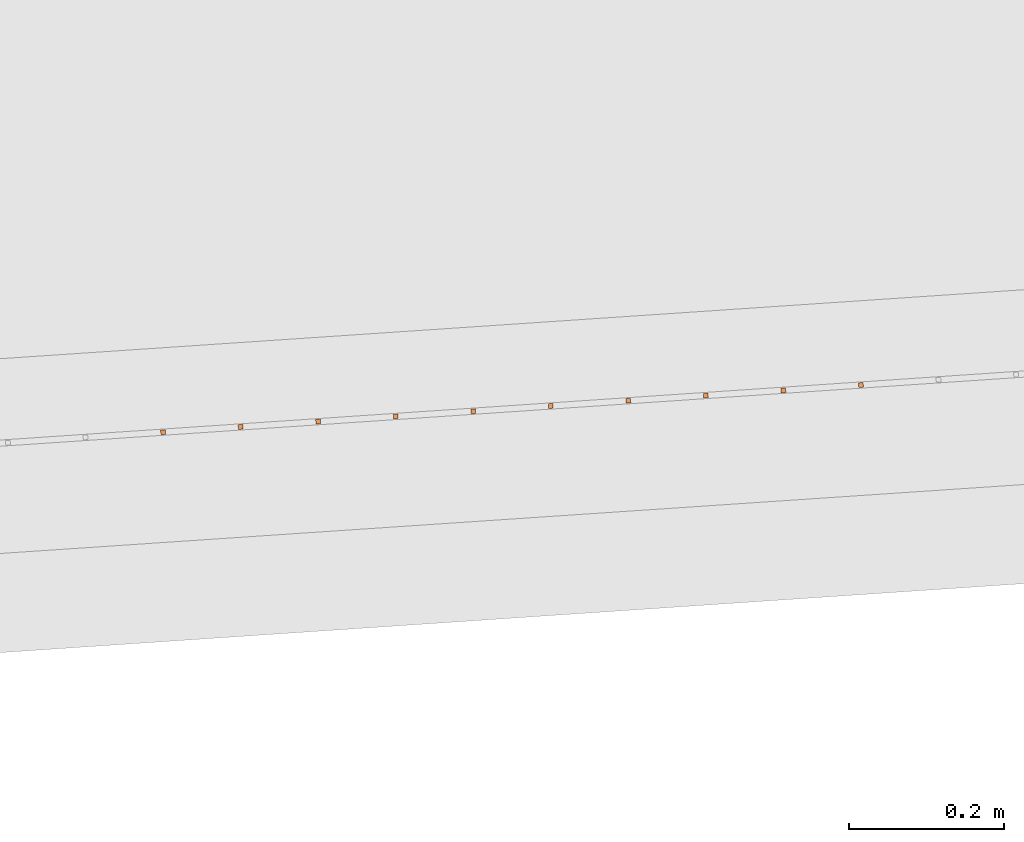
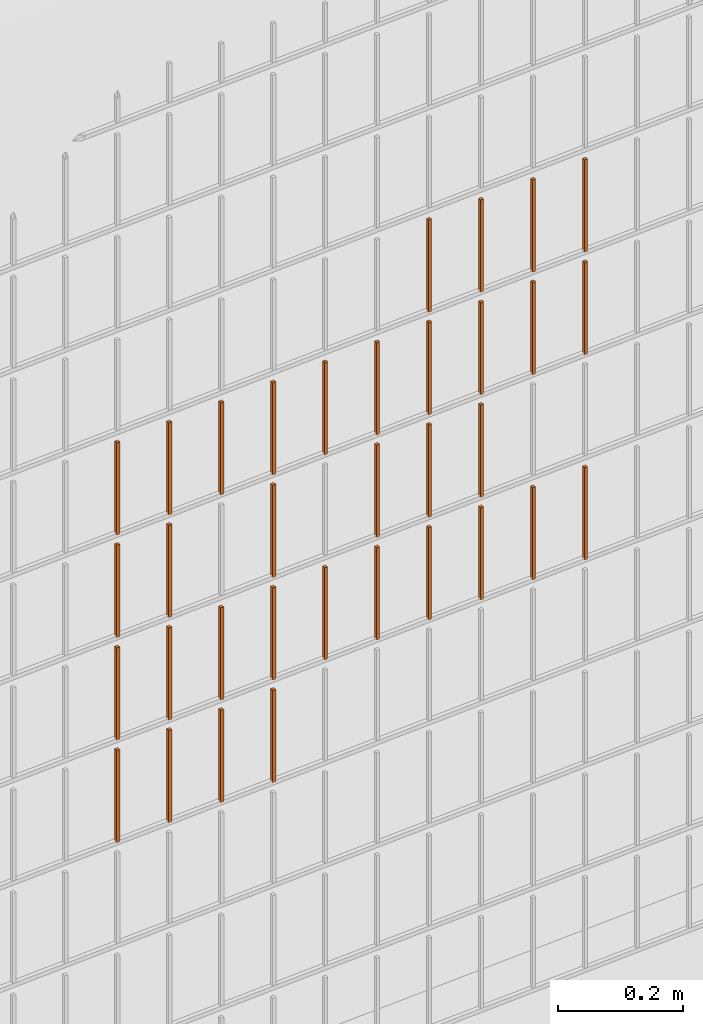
# One storey, part 281 of 1809: 34 proxies, 1 element without a shape of its own.
"""IFC2X3 building model written with IfcOpenShell, lengths in millimetres."""

from ifc_helpers import new_model, entity, si_unit, converted_unit, derived_unit, money_unit, direction, frame, origin_with_axes, place, context, subcontext, project, spatial, faceted_brep, source, transform, mapped, material, type_object, element, aggregate, save


model = new_model("IFC2X3")

# Units and contexts
model_context = context("Model", 3, precision=0.01, world=origin_with_axes(), true_north=direction((0.0, 1.0)))
body_context = subcontext(model_context, "Body", "Model", "MODEL_VIEW")
ifc_project = project(units=[si_unit("LENGTHUNIT", "METRE", prefix="MILLI"), si_unit("AREAUNIT", "SQUARE_METRE"), si_unit("VOLUMEUNIT", "CUBIC_METRE"), converted_unit("PLANEANGLEUNIT", "DEGREE", entity("IfcPlaneAngleMeasure", 0.0174532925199), si_unit("PLANEANGLEUNIT", "RADIAN"), dimensions=[0, 0, 0, 0, 0, 0, 0]), si_unit("SOLIDANGLEUNIT", "STERADIAN"), money_unit("EUR"), converted_unit("TIMEUNIT", "Year", entity("IfcTimeMeasure", 31556926.0), si_unit("TIMEUNIT", "SECOND"), dimensions=[0, 0, 1, 0, 0, 0, 0]), si_unit("MASSUNIT", "GRAM", prefix="KILO"), si_unit("THERMODYNAMICTEMPERATUREUNIT", "DEGREE_CELSIUS"), si_unit("LUMINOUSINTENSITYUNIT", "LUMEN"), si_unit("ENERGYUNIT", "JOULE", prefix="MEGA"), derived_unit("THERMALCONDUCTANCEUNIT", [(si_unit("POWERUNIT", "WATT"), 1), (si_unit("LENGTHUNIT", "METRE"), -1), (si_unit("THERMODYNAMICTEMPERATUREUNIT", "KELVIN"), -1)]), derived_unit("SPECIFICHEATCAPACITYUNIT", [(si_unit("ENERGYUNIT", "JOULE"), 1), (si_unit("MASSUNIT", "GRAM", prefix="KILO"), -1), (si_unit("THERMODYNAMICTEMPERATUREUNIT", "KELVIN"), -1)]), derived_unit("MASSDENSITYUNIT", [(si_unit("MASSUNIT", "GRAM", prefix="KILO"), 1), (si_unit("VOLUMEUNIT", "CUBIC_METRE"), -1)])], contexts=[model_context])

# Site, building, storey
site_placement = place(None, origin_with_axes())
site = spatial("IfcSite", under=ifc_project, at=site_placement, Name="Politse- ja Piirivalveameti ning Päästeameti ühishoone", CompositionType="ELEMENT")
building_placement = place(site_placement, origin_with_axes())
building = spatial("IfcBuilding", under=site, at=building_placement, Name="Politse- ja Piirivalveameti ning Päästeameti ühishoone", CompositionType="ELEMENT")
storey_placement = place(building_placement, origin_with_axes())
storey = spatial("IfcBuildingStorey", under=building, at=storey_placement, Name="Esimene korrus", CompositionType="ELEMENT", Elevation=0.0)

# Proxies
building_element_proxy_type_1 = type_object("IfcBuildingElementProxyType", Name="Railing Type", PredefinedType="NOTDEFINED")
proxy_1_placement = place(storey_placement, frame((89252.001212, -29183.4766571, 203.661247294), z_axis=(0.0, 0.0, 1.0), x_axis=(1.0, 0.0, 0.0)))
proxy_1 = element("IfcBuildingElementProxy", 1, at=proxy_1_placement, inside=storey, type_object=building_element_proxy_type_1, Name="PIIRDEAED")
ifc_material = material(Name="ET-03_Raud")
building_element_proxy_type_2 = type_object("IfcBuildingElementProxyType", Name="IfcBuildingElementProxy", PredefinedType="NOTDEFINED")
shared_shape_1 = source(origin_with_axes(), body_context, "Body", "Brep", [
    faceted_brep([(3.0, 3.0, -0.000752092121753), (-3.0, 3.0, -0.000752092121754), (-3.0, 3.0, 179.99926046), (3.0, 3.0, 179.99926046), (3.0, -3.0, 0.000752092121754), (-3.0, -3.0, 0.000752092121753), (-3.0, -3.0, 180.000764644), (3.0, -3.0, 180.000764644)], [[[0, 1, 2, 3]], [[0, 4, 5, 1]], [[1, 5, 6, 2]], [[3, 2, 6, 7]], [[4, 0, 3, 7]], [[5, 4, 7, 6]]]),
])
proxy_2_placement = place(proxy_1_placement, frame((-50212.2717659, -20689.4242251, 1414.617617), z_axis=(0.0, 0.0, 1.0), x_axis=(1.0, 0.0, 0.0)))
proxy_2 = element("IfcBuildingElementProxy", 2, at=proxy_2_placement, type_object=building_element_proxy_type_2, material=ifc_material, Name="BALUSTER - 001", context=body_context, shape_type="MappedRepresentation", body=[
    mapped(shared_shape_1, transform((0.0, 0.0, 0.0), x_axis=(-0.0673926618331, 0.997726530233, 0.0), y_axis=(-0.997726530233, -0.0673926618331, 0.0), z_axis=(0.0, 0.0, 1.0))),
])
shared_shape_2 = source(origin_with_axes(), body_context, "Body", "Brep", [
    faceted_brep([(3.0, 3.0, -0.000752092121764), (-3.0, 3.0, -0.000752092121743), (-3.0, 3.0, 179.99926046), (3.0, 3.0, 179.99926046), (3.0, -3.0, 0.000752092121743), (-3.0, -3.0, 0.000752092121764), (-3.0, -3.0, 180.000764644), (3.0, -3.0, 180.000764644)], [[[0, 1, 2, 3]], [[0, 4, 5, 1]], [[1, 5, 6, 2]], [[3, 2, 6, 7]], [[4, 0, 3, 7]], [[5, 4, 7, 6]]]),
])
proxy_3_placement = place(proxy_1_placement, frame((-51110.2256431, -20750.0776208, 614.391989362), z_axis=(0.0, 0.0, 1.0), x_axis=(1.0, 0.0, 0.0)))
proxy_3 = element("IfcBuildingElementProxy", 3, at=proxy_3_placement, type_object=building_element_proxy_type_2, material=ifc_material, Name="BALUSTER - 001", context=body_context, shape_type="MappedRepresentation", body=[
    mapped(shared_shape_2, transform((0.0, 0.0, 0.0), x_axis=(-0.0673926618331, 0.997726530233, 0.0), y_axis=(-0.997726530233, -0.0673926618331, 0.0), z_axis=(0.0, 0.0, 1.0))),
])
shared_shape_3 = source(origin_with_axes(), body_context, "Body", "Brep", [
    faceted_brep([(3.0, 3.0, -0.000752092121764), (-3.0, 3.0, -0.000752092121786), (-3.0, 3.0, 179.99926046), (3.0, 3.0, 179.99926046), (3.0, -3.0, 0.000752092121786), (-3.0, -3.0, 0.000752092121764), (-3.0, -3.0, 180.000764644), (3.0, -3.0, 180.000764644)], [[[0, 1, 2, 3]], [[0, 4, 5, 1]], [[1, 5, 6, 2]], [[3, 2, 6, 7]], [[4, 0, 3, 7]], [[5, 4, 7, 6]]]),
])
proxy_4_placement = place(proxy_1_placement, frame((-50810.907684, -20729.8598222, 814.467198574), z_axis=(0.0, 0.0, 1.0), x_axis=(1.0, 0.0, 0.0)))
proxy_4 = element("IfcBuildingElementProxy", 4, at=proxy_4_placement, type_object=building_element_proxy_type_2, material=ifc_material, Name="BALUSTER - 001", context=body_context, shape_type="MappedRepresentation", body=[
    mapped(shared_shape_3, transform((0.0, 0.0, 0.0), x_axis=(-0.0673926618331, 0.997726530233, 0.0), y_axis=(-0.997726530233, -0.0673926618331, 0.0), z_axis=(0.0, 0.0, 1.0))),
])
shared_shape_4 = source(origin_with_axes(), body_context, "Body", "Brep", [
    faceted_brep([(3.0, 3.0, -0.000752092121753), (-3.0, 3.0, -0.000752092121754), (-3.0, 3.0, 179.99926046), (3.0, 3.0, 179.99926046), (3.0, -3.0, 0.000752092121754), (-3.0, -3.0, 0.000752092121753), (-3.0, -3.0, 180.000764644), (3.0, -3.0, 180.000764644)], [[[0, 1, 2, 3]], [[0, 4, 5, 1]], [[1, 5, 6, 2]], [[3, 2, 6, 7]], [[4, 0, 3, 7]], [[5, 4, 7, 6]]]),
])
proxy_5_placement = place(proxy_1_placement, frame((-50212.2717659, -20689.4242251, 1214.617617), z_axis=(0.0, 0.0, 1.0), x_axis=(1.0, 0.0, 0.0)))
proxy_5 = element("IfcBuildingElementProxy", 5, at=proxy_5_placement, type_object=building_element_proxy_type_2, material=ifc_material, Name="BALUSTER - 001", context=body_context, shape_type="MappedRepresentation", body=[
    mapped(shared_shape_4, transform((0.0, 0.0, 0.0), x_axis=(-0.0673926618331, 0.997726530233, 0.0), y_axis=(-0.997726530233, -0.0673926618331, 0.0), z_axis=(0.0, 0.0, 1.0))),
])
shared_shape_5 = source(origin_with_axes(), body_context, "Body", "Brep", [
    faceted_brep([(3.0, 3.0, -0.000752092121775), (-3.0, 3.0, -0.000752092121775), (-3.0, 3.0, 179.99926046), (3.0, 3.0, 179.99926046), (3.0, -3.0, 0.000752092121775), (-3.0, -3.0, 0.000752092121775), (-3.0, -3.0, 180.000764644), (3.0, -3.0, 180.000764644)], [[[0, 1, 2, 3]], [[0, 4, 5, 1]], [[1, 5, 6, 2]], [[3, 2, 6, 7]], [[4, 0, 3, 7]], [[5, 4, 7, 6]]]),
])
proxy_6_placement = place(proxy_1_placement, frame((-50711.135031, -20723.120556, 814.492268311), z_axis=(0.0, 0.0, 1.0), x_axis=(1.0, 0.0, 0.0)))
proxy_6 = element("IfcBuildingElementProxy", 6, at=proxy_6_placement, type_object=building_element_proxy_type_2, material=ifc_material, Name="BALUSTER - 001", context=body_context, shape_type="MappedRepresentation", body=[
    mapped(shared_shape_5, transform((0.0, 0.0, 0.0), x_axis=(-0.0673926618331, 0.997726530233, 0.0), y_axis=(-0.997726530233, -0.0673926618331, 0.0), z_axis=(0.0, 0.0, 1.0))),
])
shared_shape_6 = source(origin_with_axes(), body_context, "Body", "Brep", [
    faceted_brep([(3.0, 3.0, -0.000752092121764), (-3.0, 3.0, -0.000752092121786), (-3.0, 3.0, 179.99926046), (3.0, 3.0, 179.99926046), (3.0, -3.0, 0.000752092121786), (-3.0, -3.0, 0.000752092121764), (-3.0, -3.0, 180.000764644), (3.0, -3.0, 180.000764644)], [[[0, 1, 2, 3]], [[0, 4, 5, 1]], [[1, 5, 6, 2]], [[3, 2, 6, 7]], [[4, 0, 3, 7]], [[5, 4, 7, 6]]]),
])
proxy_7_placement = place(proxy_1_placement, frame((-50810.907684, -20729.8598222, 614.467198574), z_axis=(0.0, 0.0, 1.0), x_axis=(1.0, 0.0, 0.0)))
proxy_7 = element("IfcBuildingElementProxy", 7, at=proxy_7_placement, type_object=building_element_proxy_type_2, material=ifc_material, Name="BALUSTER - 001", context=body_context, shape_type="MappedRepresentation", body=[
    mapped(shared_shape_6, transform((0.0, 0.0, 0.0), x_axis=(-0.0673926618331, 0.997726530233, 0.0), y_axis=(-0.997726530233, -0.0673926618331, 0.0), z_axis=(0.0, 0.0, 1.0))),
])
shared_shape_7 = source(origin_with_axes(), body_context, "Body", "Brep", [
    faceted_brep([(3.0, 3.0, -0.000752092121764), (-3.0, 3.0, -0.000752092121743), (-3.0, 3.0, 179.99926046), (3.0, 3.0, 179.99926046), (3.0, -3.0, 0.000752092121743), (-3.0, -3.0, 0.000752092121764), (-3.0, -3.0, 180.000764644), (3.0, -3.0, 180.000764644)], [[[0, 1, 2, 3]], [[0, 4, 5, 1]], [[1, 5, 6, 2]], [[3, 2, 6, 7]], [[4, 0, 3, 7]], [[5, 4, 7, 6]]]),
])
proxy_8_placement = place(proxy_1_placement, frame((-51110.2256431, -20750.0776208, 1214.39198936), z_axis=(0.0, 0.0, 1.0), x_axis=(1.0, 0.0, 0.0)))
proxy_8 = element("IfcBuildingElementProxy", 8, at=proxy_8_placement, type_object=building_element_proxy_type_2, material=ifc_material, Name="BALUSTER - 001", context=body_context, shape_type="MappedRepresentation", body=[
    mapped(shared_shape_7, transform((0.0, 0.0, 0.0), x_axis=(-0.0673926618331, 0.997726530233, 0.0), y_axis=(-0.997726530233, -0.0673926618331, 0.0), z_axis=(0.0, 0.0, 1.0))),
])
shared_shape_8 = source(origin_with_axes(), body_context, "Body", "Brep", [
    faceted_brep([(3.0, 3.0, -0.000752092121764), (-3.0, 3.0, -0.000752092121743), (-3.0, 3.0, 179.99926046), (3.0, 3.0, 179.99926046), (3.0, -3.0, 0.000752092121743), (-3.0, -3.0, 0.000752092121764), (-3.0, -3.0, 180.000764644), (3.0, -3.0, 180.000764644)], [[[0, 1, 2, 3]], [[0, 4, 5, 1]], [[1, 5, 6, 2]], [[3, 2, 6, 7]], [[4, 0, 3, 7]], [[5, 4, 7, 6]]]),
])
proxy_9_placement = place(proxy_1_placement, frame((-50312.0444189, -20696.1634913, 814.592547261), z_axis=(0.0, 0.0, 1.0), x_axis=(1.0, 0.0, 0.0)))
proxy_9 = element("IfcBuildingElementProxy", 9, at=proxy_9_placement, type_object=building_element_proxy_type_2, material=ifc_material, Name="BALUSTER - 001", context=body_context, shape_type="MappedRepresentation", body=[
    mapped(shared_shape_8, transform((0.0, 0.0, 0.0), x_axis=(-0.0673926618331, 0.997726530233, 0.0), y_axis=(-0.997726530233, -0.0673926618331, 0.0), z_axis=(0.0, 0.0, 1.0))),
])
proxy_10_placement = place(proxy_1_placement, frame((-51110.2256431, -20750.0776208, 814.391989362), z_axis=(0.0, 0.0, 1.0), x_axis=(1.0, 0.0, 0.0)))
proxy_10 = element("IfcBuildingElementProxy", 10, at=proxy_10_placement, type_object=building_element_proxy_type_2, material=ifc_material, Name="BALUSTER - 001", context=body_context, shape_type="MappedRepresentation", body=[
    mapped(shared_shape_8, transform((0.0, 0.0, 0.0), x_axis=(-0.0673926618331, 0.997726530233, 0.0), y_axis=(-0.997726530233, -0.0673926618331, 0.0), z_axis=(0.0, 0.0, 1.0))),
])
shared_shape_9 = source(origin_with_axes(), body_context, "Body", "Brep", [
    faceted_brep([(3.0, 3.0, -0.000752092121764), (-3.0, 3.0, -0.000752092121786), (-3.0, 3.0, 179.99926046), (3.0, 3.0, 179.99926046), (3.0, -3.0, 0.000752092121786), (-3.0, -3.0, 0.000752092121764), (-3.0, -3.0, 180.000764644), (3.0, -3.0, 180.000764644)], [[[0, 1, 2, 3]], [[0, 4, 5, 1]], [[1, 5, 6, 2]], [[3, 2, 6, 7]], [[4, 0, 3, 7]], [[5, 4, 7, 6]]]),
])
proxy_11_placement = place(proxy_1_placement, frame((-50711.135031, -20723.120556, 1214.49226831), z_axis=(0.0, 0.0, 1.0), x_axis=(1.0, 0.0, 0.0)))
proxy_11 = element("IfcBuildingElementProxy", 11, at=proxy_11_placement, type_object=building_element_proxy_type_2, material=ifc_material, Name="BALUSTER - 001", context=body_context, shape_type="MappedRepresentation", body=[
    mapped(shared_shape_9, transform((0.0, 0.0, 0.0), x_axis=(-0.0673926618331, 0.997726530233, 0.0), y_axis=(-0.997726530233, -0.0673926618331, 0.0), z_axis=(0.0, 0.0, 1.0))),
])
shared_shape_10 = source(origin_with_axes(), body_context, "Body", "Brep", [
    faceted_brep([(3.0, 3.0, -0.000752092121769), (-3.0, 3.0, -0.00075209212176), (-3.00000000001, 3.0, 179.99926046), (2.99999999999, 3.0, 179.99926046), (3.0, -3.0, 0.00075209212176), (-3.0, -3.0, 0.000752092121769), (-3.00000000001, -3.0, 180.000764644), (2.99999999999, -3.0, 180.000764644)], [[[0, 1, 2, 3]], [[0, 4, 5, 1]], [[1, 5, 6, 2]], [[3, 2, 6, 7]], [[4, 0, 3, 7]], [[5, 4, 7, 6]]]),
])
proxy_12_placement = place(proxy_1_placement, frame((-50411.817072, -20702.9027575, 1014.56747752), z_axis=(0.0, 0.0, 1.0), x_axis=(1.0, 0.0, 0.0)))
proxy_12 = element("IfcBuildingElementProxy", 12, at=proxy_12_placement, type_object=building_element_proxy_type_2, material=ifc_material, Name="BALUSTER - 001", context=body_context, shape_type="MappedRepresentation", body=[
    mapped(shared_shape_10, transform((0.0, 0.0, 0.0), x_axis=(-0.0673926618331, 0.997726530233, 0.0), y_axis=(-0.997726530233, -0.0673926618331, 0.0), z_axis=(0.0, 0.0, 1.0))),
])
shared_shape_11 = source(origin_with_axes(), body_context, "Body", "Brep", [
    faceted_brep([(3.0, 3.0, -0.000752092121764), (-3.0, 3.0, -0.000752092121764), (-3.0, 3.0, 179.99926046), (3.0, 3.0, 179.99926046), (3.0, -3.0, 0.000752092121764), (-3.0, -3.0, 0.000752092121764), (-3.0, -3.0, 180.000764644), (3.0, -3.0, 180.000764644)], [[[0, 1, 2, 3]], [[0, 4, 5, 1]], [[1, 5, 6, 2]], [[3, 2, 6, 7]], [[4, 0, 3, 7]], [[5, 4, 7, 6]]]),
])
proxy_13_placement = place(proxy_1_placement, frame((-50411.817072, -20702.9027575, 814.567477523), z_axis=(0.0, 0.0, 1.0), x_axis=(1.0, 0.0, 0.0)))
proxy_13 = element("IfcBuildingElementProxy", 13, at=proxy_13_placement, type_object=building_element_proxy_type_2, material=ifc_material, Name="BALUSTER - 001", context=body_context, shape_type="MappedRepresentation", body=[
    mapped(shared_shape_11, transform((0.0, 0.0, 0.0), x_axis=(-0.0673926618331, 0.997726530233, 0.0), y_axis=(-0.997726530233, -0.0673926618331, 0.0), z_axis=(0.0, 0.0, 1.0))),
])
shared_shape_12 = source(origin_with_axes(), body_context, "Body", "Brep", [
    faceted_brep([(3.0, 3.0, -0.000752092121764), (-3.0, 3.0, -0.000752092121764), (-3.0, 3.0, 179.99926046), (3.0, 3.0, 179.99926046), (3.0, -3.0, 0.000752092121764), (-3.0, -3.0, 0.000752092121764), (-3.0, -3.0, 180.000764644), (3.0, -3.0, 180.000764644)], [[[0, 1, 2, 3]], [[0, 4, 5, 1]], [[1, 5, 6, 2]], [[3, 2, 6, 7]], [[4, 0, 3, 7]], [[5, 4, 7, 6]]]),
])
proxy_14_placement = place(proxy_1_placement, frame((-50810.907684, -20729.8598222, 1214.46719857), z_axis=(0.0, 0.0, 1.0), x_axis=(1.0, 0.0, 0.0)))
proxy_14 = element("IfcBuildingElementProxy", 14, at=proxy_14_placement, type_object=building_element_proxy_type_2, material=ifc_material, Name="BALUSTER - 001", context=body_context, shape_type="MappedRepresentation", body=[
    mapped(shared_shape_12, transform((0.0, 0.0, 0.0), x_axis=(-0.0673926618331, 0.997726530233, 0.0), y_axis=(-0.997726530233, -0.0673926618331, 0.0), z_axis=(0.0, 0.0, 1.0))),
])
shared_shape_13 = source(origin_with_axes(), body_context, "Body", "Brep", [
    faceted_brep([(3.0, 3.0, -0.000752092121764), (-3.0, 3.0, -0.000752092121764), (-3.0, 3.0, 179.99926046), (3.0, 3.0, 179.99926046), (3.0, -3.0, 0.000752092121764), (-3.0, -3.0, 0.000752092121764), (-3.0, -3.0, 180.000764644), (3.0, -3.0, 180.000764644)], [[[0, 1, 2, 3]], [[0, 4, 5, 1]], [[1, 5, 6, 2]], [[3, 2, 6, 7]], [[4, 0, 3, 7]], [[5, 4, 7, 6]]]),
])
proxy_15_placement = place(proxy_1_placement, frame((-50411.817072, -20702.9027575, 1214.56747752), z_axis=(0.0, 0.0, 1.0), x_axis=(1.0, 0.0, 0.0)))
proxy_15 = element("IfcBuildingElementProxy", 15, at=proxy_15_placement, type_object=building_element_proxy_type_2, material=ifc_material, Name="BALUSTER - 001", context=body_context, shape_type="MappedRepresentation", body=[
    mapped(shared_shape_13, transform((0.0, 0.0, 0.0), x_axis=(-0.0673926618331, 0.997726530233, 0.0), y_axis=(-0.997726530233, -0.0673926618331, 0.0), z_axis=(0.0, 0.0, 1.0))),
])
shared_shape_14 = source(origin_with_axes(), body_context, "Body", "Brep", [
    faceted_brep([(3.0, 3.0, -0.000752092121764), (-3.0, 3.0, -0.000752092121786), (-3.0, 3.0, 179.99926046), (3.0, 3.0, 179.99926046), (3.0, -3.0, 0.000752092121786), (-3.0, -3.0, 0.000752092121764), (-3.0, -3.0, 180.000764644), (3.0, -3.0, 180.000764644)], [[[0, 1, 2, 3]], [[0, 4, 5, 1]], [[1, 5, 6, 2]], [[3, 2, 6, 7]], [[4, 0, 3, 7]], [[5, 4, 7, 6]]]),
])
proxy_16_placement = place(proxy_1_placement, frame((-51010.4529901, -20743.3383546, 814.417059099), z_axis=(0.0, 0.0, 1.0), x_axis=(1.0, 0.0, 0.0)))
proxy_16 = element("IfcBuildingElementProxy", 16, at=proxy_16_placement, type_object=building_element_proxy_type_2, material=ifc_material, Name="BALUSTER - 001", context=body_context, shape_type="MappedRepresentation", body=[
    mapped(shared_shape_14, transform((0.0, 0.0, 0.0), x_axis=(-0.0673926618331, 0.997726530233, 0.0), y_axis=(-0.997726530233, -0.0673926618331, 0.0), z_axis=(0.0, 0.0, 1.0))),
])
shared_shape_15 = source(origin_with_axes(), body_context, "Body", "Brep", [
    faceted_brep([(3.0, 3.0, -0.000752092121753), (-3.0, 3.0, -0.000752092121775), (-3.0, 3.0, 179.99926046), (3.0, 3.0, 179.99926046), (3.0, -3.0, 0.000752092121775), (-3.0, -3.0, 0.000752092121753), (-3.0, -3.0, 180.000764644), (3.0, -3.0, 180.000764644)], [[[0, 1, 2, 3]], [[0, 4, 5, 1]], [[1, 5, 6, 2]], [[3, 2, 6, 7]], [[4, 0, 3, 7]], [[5, 4, 7, 6]]]),
])
proxy_17_placement = place(proxy_1_placement, frame((-50312.0444189, -20696.1634913, 1214.59254726), z_axis=(0.0, 0.0, 1.0), x_axis=(1.0, 0.0, 0.0)))
proxy_17 = element("IfcBuildingElementProxy", 17, at=proxy_17_placement, type_object=building_element_proxy_type_2, material=ifc_material, Name="BALUSTER - 001", context=body_context, shape_type="MappedRepresentation", body=[
    mapped(shared_shape_15, transform((0.0, 0.0, 0.0), x_axis=(-0.0673926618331, 0.997726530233, 0.0), y_axis=(-0.997726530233, -0.0673926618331, 0.0), z_axis=(0.0, 0.0, 1.0))),
])
shared_shape_16 = source(origin_with_axes(), body_context, "Body", "Brep", [
    faceted_brep([(3.0, 3.0, -0.000752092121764), (-3.0, 3.0, -0.000752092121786), (-3.0, 3.0, 179.99926046), (3.0, 3.0, 179.99926046), (3.0, -3.0, 0.000752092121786), (-3.0, -3.0, 0.000752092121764), (-3.0, -3.0, 180.000764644), (3.0, -3.0, 180.000764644)], [[[0, 1, 2, 3]], [[0, 4, 5, 1]], [[1, 5, 6, 2]], [[3, 2, 6, 7]], [[4, 0, 3, 7]], [[5, 4, 7, 6]]]),
])
proxy_18_placement = place(proxy_1_placement, frame((-51010.4529901, -20743.3383546, 614.417059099), z_axis=(0.0, 0.0, 1.0), x_axis=(1.0, 0.0, 0.0)))
proxy_18 = element("IfcBuildingElementProxy", 18, at=proxy_18_placement, type_object=building_element_proxy_type_2, material=ifc_material, Name="BALUSTER - 001", context=body_context, shape_type="MappedRepresentation", body=[
    mapped(shared_shape_16, transform((0.0, 0.0, 0.0), x_axis=(-0.0673926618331, 0.997726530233, 0.0), y_axis=(-0.997726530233, -0.0673926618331, 0.0), z_axis=(0.0, 0.0, 1.0))),
])
proxy_19_placement = place(proxy_1_placement, frame((-51010.4529901, -20743.3383546, 1214.4170591), z_axis=(0.0, 0.0, 1.0), x_axis=(1.0, 0.0, 0.0)))
proxy_19 = element("IfcBuildingElementProxy", 19, at=proxy_19_placement, type_object=building_element_proxy_type_2, material=ifc_material, Name="BALUSTER - 001", context=body_context, shape_type="MappedRepresentation", body=[
    mapped(shared_shape_16, transform((0.0, 0.0, 0.0), x_axis=(-0.0673926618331, 0.997726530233, 0.0), y_axis=(-0.997726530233, -0.0673926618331, 0.0), z_axis=(0.0, 0.0, 1.0))),
])
shared_shape_17 = source(origin_with_axes(), body_context, "Body", "Brep", [
    faceted_brep([(3.0, 3.0, -0.000752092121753), (-3.0, 3.0, -0.000752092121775), (-3.0, 3.0, 179.99926046), (3.0, 3.0, 179.99926046), (3.0, -3.0, 0.000752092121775), (-3.0, -3.0, 0.000752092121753), (-3.0, -3.0, 180.000764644), (3.0, -3.0, 180.000764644)], [[[0, 1, 2, 3]], [[0, 4, 5, 1]], [[1, 5, 6, 2]], [[3, 2, 6, 7]], [[4, 0, 3, 7]], [[5, 4, 7, 6]]]),
])
proxy_20_placement = place(proxy_1_placement, frame((-50511.589725, -20709.6420237, 1214.54240779), z_axis=(0.0, 0.0, 1.0), x_axis=(1.0, 0.0, 0.0)))
proxy_20 = element("IfcBuildingElementProxy", 20, at=proxy_20_placement, type_object=building_element_proxy_type_2, material=ifc_material, Name="BALUSTER - 001", context=body_context, shape_type="MappedRepresentation", body=[
    mapped(shared_shape_17, transform((0.0, 0.0, 0.0), x_axis=(-0.0673926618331, 0.997726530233, 0.0), y_axis=(-0.997726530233, -0.0673926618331, 0.0), z_axis=(0.0, 0.0, 1.0))),
])
shared_shape_18 = source(origin_with_axes(), body_context, "Body", "Brep", [
    faceted_brep([(3.0, 3.0, -0.000752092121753), (-3.0, 3.0, -0.000752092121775), (-3.0, 3.0, 179.99926046), (3.0, 3.0, 179.99926046), (3.0, -3.0, 0.000752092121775), (-3.0, -3.0, 0.000752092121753), (-3.0, -3.0, 180.000764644), (3.0, -3.0, 180.000764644)], [[[0, 1, 2, 3]], [[0, 4, 5, 1]], [[1, 5, 6, 2]], [[3, 2, 6, 7]], [[4, 0, 3, 7]], [[5, 4, 7, 6]]]),
])
proxy_21_placement = place(proxy_1_placement, frame((-50212.2717659, -20689.4242251, 814.617616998), z_axis=(0.0, 0.0, 1.0), x_axis=(1.0, 0.0, 0.0)))
proxy_21 = element("IfcBuildingElementProxy", 21, at=proxy_21_placement, type_object=building_element_proxy_type_2, material=ifc_material, Name="BALUSTER - 001", context=body_context, shape_type="MappedRepresentation", body=[
    mapped(shared_shape_18, transform((0.0, 0.0, 0.0), x_axis=(-0.0673926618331, 0.997726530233, 0.0), y_axis=(-0.997726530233, -0.0673926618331, 0.0), z_axis=(0.0, 0.0, 1.0))),
])
shared_shape_19 = source(origin_with_axes(), body_context, "Body", "Brep", [
    faceted_brep([(3.0, 3.0, -0.000752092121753), (-3.0, 3.0, -0.000752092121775), (-3.0, 3.0, 179.99926046), (3.0, 3.0, 179.99926046), (3.0, -3.0, 0.000752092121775), (-3.0, -3.0, 0.000752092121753), (-3.0, -3.0, 180.000764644), (3.0, -3.0, 180.000764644)], [[[0, 1, 2, 3]], [[0, 4, 5, 1]], [[1, 5, 6, 2]], [[3, 2, 6, 7]], [[4, 0, 3, 7]], [[5, 4, 7, 6]]]),
])
proxy_22_placement = place(proxy_1_placement, frame((-50511.589725, -20709.6420237, 1414.54240779), z_axis=(0.0, 0.0, 1.0), x_axis=(1.0, 0.0, 0.0)))
proxy_22 = element("IfcBuildingElementProxy", 22, at=proxy_22_placement, type_object=building_element_proxy_type_2, material=ifc_material, Name="BALUSTER - 001", context=body_context, shape_type="MappedRepresentation", body=[
    mapped(shared_shape_19, transform((0.0, 0.0, 0.0), x_axis=(-0.0673926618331, 0.997726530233, 0.0), y_axis=(-0.997726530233, -0.0673926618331, 0.0), z_axis=(0.0, 0.0, 1.0))),
])
shared_shape_20 = source(origin_with_axes(), body_context, "Body", "Brep", [
    faceted_brep([(3.0, 3.0, -0.000752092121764), (-3.0, 3.0, -0.000752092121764), (-3.0, 3.0, 179.99926046), (3.0, 3.0, 179.99926046), (3.0, -3.0, 0.000752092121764), (-3.0, -3.0, 0.000752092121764), (-3.0, -3.0, 180.000764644), (3.0, -3.0, 180.000764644)], [[[0, 1, 2, 3]], [[0, 4, 5, 1]], [[1, 5, 6, 2]], [[3, 2, 6, 7]], [[4, 0, 3, 7]], [[5, 4, 7, 6]]]),
])
proxy_23_placement = place(proxy_1_placement, frame((-50511.589725, -20709.6420237, 814.542407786), z_axis=(0.0, 0.0, 1.0), x_axis=(1.0, 0.0, 0.0)))
proxy_23 = element("IfcBuildingElementProxy", 23, at=proxy_23_placement, type_object=building_element_proxy_type_2, material=ifc_material, Name="BALUSTER - 001", context=body_context, shape_type="MappedRepresentation", body=[
    mapped(shared_shape_20, transform((0.0, 0.0, 0.0), x_axis=(-0.0673926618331, 0.997726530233, 0.0), y_axis=(-0.997726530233, -0.0673926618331, 0.0), z_axis=(0.0, 0.0, 1.0))),
])
proxy_24_placement = place(proxy_1_placement, frame((-50611.362378, -20716.3812898, 814.517338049), z_axis=(0.0, 0.0, 1.0), x_axis=(1.0, 0.0, 0.0)))
proxy_24 = element("IfcBuildingElementProxy", 24, at=proxy_24_placement, type_object=building_element_proxy_type_2, material=ifc_material, Name="BALUSTER - 001", context=body_context, shape_type="MappedRepresentation", body=[
    mapped(shared_shape_20, transform((0.0, 0.0, 0.0), x_axis=(-0.0673926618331, 0.997726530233, 0.0), y_axis=(-0.997726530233, -0.0673926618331, 0.0), z_axis=(0.0, 0.0, 1.0))),
])
proxy_25_placement = place(proxy_1_placement, frame((-50611.362378, -20716.3812898, 1214.51733805), z_axis=(0.0, 0.0, 1.0), x_axis=(1.0, 0.0, 0.0)))
proxy_25 = element("IfcBuildingElementProxy", 25, at=proxy_25_placement, type_object=building_element_proxy_type_2, material=ifc_material, Name="BALUSTER - 001", context=body_context, shape_type="MappedRepresentation", body=[
    mapped(shared_shape_20, transform((0.0, 0.0, 0.0), x_axis=(-0.0673926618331, 0.997726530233, 0.0), y_axis=(-0.997726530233, -0.0673926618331, 0.0), z_axis=(0.0, 0.0, 1.0))),
])
shared_shape_21 = source(origin_with_axes(), body_context, "Body", "Brep", [
    faceted_brep([(3.0, 3.0, -0.000752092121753), (-3.0, 3.0, -0.000752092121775), (-3.0, 3.0, 179.99926046), (3.0, 3.0, 179.99926046), (3.0, -3.0, 0.000752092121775), (-3.0, -3.0, 0.000752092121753), (-3.0, -3.0, 180.000764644), (3.0, -3.0, 180.000764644)], [[[0, 1, 2, 3]], [[0, 4, 5, 1]], [[1, 5, 6, 2]], [[3, 2, 6, 7]], [[4, 0, 3, 7]], [[5, 4, 7, 6]]]),
])
proxy_26_placement = place(proxy_1_placement, frame((-50910.6803371, -20736.5990884, 614.442128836), z_axis=(0.0, 0.0, 1.0), x_axis=(1.0, 0.0, 0.0)))
proxy_26 = element("IfcBuildingElementProxy", 26, at=proxy_26_placement, type_object=building_element_proxy_type_2, material=ifc_material, Name="BALUSTER - 001", context=body_context, shape_type="MappedRepresentation", body=[
    mapped(shared_shape_21, transform((0.0, 0.0, 0.0), x_axis=(-0.0673926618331, 0.997726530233, 0.0), y_axis=(-0.997726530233, -0.0673926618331, 0.0), z_axis=(0.0, 0.0, 1.0))),
])
proxy_27_placement = place(proxy_1_placement, frame((-50910.6803371, -20736.5990884, 814.442128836), z_axis=(0.0, 0.0, 1.0), x_axis=(1.0, 0.0, 0.0)))
proxy_27 = element("IfcBuildingElementProxy", 27, at=proxy_27_placement, type_object=building_element_proxy_type_2, material=ifc_material, Name="BALUSTER - 001", context=body_context, shape_type="MappedRepresentation", body=[
    mapped(shared_shape_21, transform((0.0, 0.0, 0.0), x_axis=(-0.0673926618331, 0.997726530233, 0.0), y_axis=(-0.997726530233, -0.0673926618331, 0.0), z_axis=(0.0, 0.0, 1.0))),
])
proxy_28_placement = place(proxy_1_placement, frame((-50910.6803371, -20736.5990884, 1214.44212884), z_axis=(0.0, 0.0, 1.0), x_axis=(1.0, 0.0, 0.0)))
proxy_28 = element("IfcBuildingElementProxy", 28, at=proxy_28_placement, type_object=building_element_proxy_type_2, material=ifc_material, Name="BALUSTER - 001", context=body_context, shape_type="MappedRepresentation", body=[
    mapped(shared_shape_21, transform((0.0, 0.0, 0.0), x_axis=(-0.0673926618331, 0.997726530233, 0.0), y_axis=(-0.997726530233, -0.0673926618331, 0.0), z_axis=(0.0, 0.0, 1.0))),
])
shared_shape_22 = source(origin_with_axes(), body_context, "Body", "Brep", [
    faceted_brep([(3.0, 3.0, -0.000752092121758), (-3.0, 3.0, -0.00075209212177), (-3.00000000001, 3.0, 179.99926046), (2.99999999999, 3.0, 179.99926046), (3.0, -3.0, 0.00075209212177), (-3.0, -3.0, 0.000752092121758), (-3.00000000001, -3.0, 180.000764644), (2.99999999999, -3.0, 180.000764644)], [[[0, 1, 2, 3]], [[0, 4, 5, 1]], [[1, 5, 6, 2]], [[3, 2, 6, 7]], [[4, 0, 3, 7]], [[5, 4, 7, 6]]]),
])
proxy_29_placement = place(proxy_1_placement, frame((-51010.4529901, -20743.3383546, 1014.4170591), z_axis=(0.0, 0.0, 1.0), x_axis=(1.0, 0.0, 0.0)))
proxy_29 = element("IfcBuildingElementProxy", 29, at=proxy_29_placement, type_object=building_element_proxy_type_2, material=ifc_material, Name="BALUSTER - 001", context=body_context, shape_type="MappedRepresentation", body=[
    mapped(shared_shape_22, transform((0.0, 0.0, 0.0), x_axis=(-0.0673926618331, 0.997726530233, 0.0), y_axis=(-0.997726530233, -0.0673926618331, 0.0), z_axis=(0.0, 0.0, 1.0))),
])
shared_shape_23 = source(origin_with_axes(), body_context, "Body", "Brep", [
    faceted_brep([(3.0, 3.0, -0.000752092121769), (-3.0, 3.0, -0.00075209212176), (-3.00000000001, 3.0, 179.99926046), (2.99999999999, 3.0, 179.99926046), (3.0, -3.0, 0.00075209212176), (-3.0, -3.0, 0.000752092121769), (-3.00000000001, -3.0, 180.000764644), (2.99999999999, -3.0, 180.000764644)], [[[0, 1, 2, 3]], [[0, 4, 5, 1]], [[1, 5, 6, 2]], [[3, 2, 6, 7]], [[4, 0, 3, 7]], [[5, 4, 7, 6]]]),
])
proxy_30_placement = place(proxy_1_placement, frame((-50611.362378, -20716.3812898, 1014.51733805), z_axis=(0.0, 0.0, 1.0), x_axis=(1.0, 0.0, 0.0)))
proxy_30 = element("IfcBuildingElementProxy", 30, at=proxy_30_placement, type_object=building_element_proxy_type_2, material=ifc_material, Name="BALUSTER - 001", context=body_context, shape_type="MappedRepresentation", body=[
    mapped(shared_shape_23, transform((0.0, 0.0, 0.0), x_axis=(-0.0673926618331, 0.997726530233, 0.0), y_axis=(-0.997726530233, -0.0673926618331, 0.0), z_axis=(0.0, 0.0, 1.0))),
])
shared_shape_24 = source(origin_with_axes(), body_context, "Body", "Brep", [
    faceted_brep([(3.0, 3.0, -0.000752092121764), (-3.0, 3.0, -0.000752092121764), (-3.0, 3.0, 179.99926046), (3.0, 3.0, 179.99926046), (3.0, -3.0, 0.000752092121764), (-3.0, -3.0, 0.000752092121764), (-3.0, -3.0, 180.000764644), (3.0, -3.0, 180.000764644)], [[[0, 1, 2, 3]], [[0, 4, 5, 1]], [[1, 5, 6, 2]], [[3, 2, 6, 7]], [[4, 0, 3, 7]], [[5, 4, 7, 6]]]),
])
proxy_31_placement = place(proxy_1_placement, frame((-50411.817072, -20702.9027575, 1414.56747752), z_axis=(0.0, 0.0, 1.0), x_axis=(1.0, 0.0, 0.0)))
proxy_31 = element("IfcBuildingElementProxy", 31, at=proxy_31_placement, type_object=building_element_proxy_type_2, material=ifc_material, Name="BALUSTER - 001", context=body_context, shape_type="MappedRepresentation", body=[
    mapped(shared_shape_24, transform((0.0, 0.0, 0.0), x_axis=(-0.0673926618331, 0.997726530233, 0.0), y_axis=(-0.997726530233, -0.0673926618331, 0.0), z_axis=(0.0, 0.0, 1.0))),
])
shared_shape_25 = source(origin_with_axes(), body_context, "Body", "Brep", [
    faceted_brep([(3.0, 3.0, -0.000752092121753), (-3.0, 3.0, -0.000752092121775), (-3.0, 3.0, 179.99926046), (3.0, 3.0, 179.99926046), (3.0, -3.0, 0.000752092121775), (-3.0, -3.0, 0.000752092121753), (-3.0, -3.0, 180.000764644), (3.0, -3.0, 180.000764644)], [[[0, 1, 2, 3]], [[0, 4, 5, 1]], [[1, 5, 6, 2]], [[3, 2, 6, 7]], [[4, 0, 3, 7]], [[5, 4, 7, 6]]]),
])
proxy_32_placement = place(proxy_1_placement, frame((-50312.0444189, -20696.1634913, 1414.59254726), z_axis=(0.0, 0.0, 1.0), x_axis=(1.0, 0.0, 0.0)))
proxy_32 = element("IfcBuildingElementProxy", 32, at=proxy_32_placement, type_object=building_element_proxy_type_2, material=ifc_material, Name="BALUSTER - 001", context=body_context, shape_type="MappedRepresentation", body=[
    mapped(shared_shape_25, transform((0.0, 0.0, 0.0), x_axis=(-0.0673926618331, 0.997726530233, 0.0), y_axis=(-0.997726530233, -0.0673926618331, 0.0), z_axis=(0.0, 0.0, 1.0))),
])
shared_shape_26 = source(origin_with_axes(), body_context, "Body", "Brep", [
    faceted_brep([(3.0, 3.0, -0.000752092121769), (-3.0, 3.0, -0.00075209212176), (-3.00000000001, 3.0, 179.99926046), (2.99999999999, 3.0, 179.99926046), (3.0, -3.0, 0.00075209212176), (-3.0, -3.0, 0.000752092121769), (-3.00000000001, -3.0, 180.000764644), (2.99999999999, -3.0, 180.000764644)], [[[0, 1, 2, 3]], [[0, 4, 5, 1]], [[1, 5, 6, 2]], [[3, 2, 6, 7]], [[4, 0, 3, 7]], [[5, 4, 7, 6]]]),
])
proxy_33_placement = place(proxy_1_placement, frame((-50511.589725, -20709.6420237, 1014.54240779), z_axis=(0.0, 0.0, 1.0), x_axis=(1.0, 0.0, 0.0)))
proxy_33 = element("IfcBuildingElementProxy", 33, at=proxy_33_placement, type_object=building_element_proxy_type_2, material=ifc_material, Name="BALUSTER - 001", context=body_context, shape_type="MappedRepresentation", body=[
    mapped(shared_shape_26, transform((0.0, 0.0, 0.0), x_axis=(-0.0673926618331, 0.997726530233, 0.0), y_axis=(-0.997726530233, -0.0673926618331, 0.0), z_axis=(0.0, 0.0, 1.0))),
])
proxy_34_placement = place(proxy_1_placement, frame((-50810.907684, -20729.8598222, 1014.46719857), z_axis=(0.0, 0.0, 1.0), x_axis=(1.0, 0.0, 0.0)))
proxy_34 = element("IfcBuildingElementProxy", 34, at=proxy_34_placement, type_object=building_element_proxy_type_2, material=ifc_material, Name="BALUSTER - 001", context=body_context, shape_type="MappedRepresentation", body=[
    mapped(shared_shape_26, transform((0.0, 0.0, 0.0), x_axis=(-0.0673926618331, 0.997726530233, 0.0), y_axis=(-0.997726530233, -0.0673926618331, 0.0), z_axis=(0.0, 0.0, 1.0))),
])
shared_shape_27 = source(origin_with_axes(), body_context, "Body", "Brep", [
    faceted_brep([(3.0, 3.0, -0.000752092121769), (-3.0, 3.0, -0.000752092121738), (-3.00000000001, 3.0, 179.99926046), (2.99999999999, 3.0, 179.99926046), (3.0, -3.0, 0.000752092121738), (-3.0, -3.0, 0.000752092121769), (-3.00000000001, -3.0, 180.000764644), (2.99999999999, -3.0, 180.000764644)], [[[0, 1, 2, 3]], [[0, 4, 5, 1]], [[1, 5, 6, 2]], [[3, 2, 6, 7]], [[4, 0, 3, 7]], [[5, 4, 7, 6]]]),
])
proxy_35_placement = place(proxy_1_placement, frame((-51110.2256431, -20750.0776208, 1014.39198936), z_axis=(0.0, 0.0, 1.0), x_axis=(1.0, 0.0, 0.0)))
proxy_35 = element("IfcBuildingElementProxy", 35, at=proxy_35_placement, type_object=building_element_proxy_type_2, material=ifc_material, Name="BALUSTER - 001", context=body_context, shape_type="MappedRepresentation", body=[
    mapped(shared_shape_27, transform((0.0, 0.0, 0.0), x_axis=(-0.0673926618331, 0.997726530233, 0.0), y_axis=(-0.997726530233, -0.0673926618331, 0.0), z_axis=(0.0, 0.0, 1.0))),
])
aggregate(proxy_1, [proxy_7, proxy_26, proxy_18, proxy_3, proxy_21, proxy_9, proxy_13, proxy_23, proxy_24, proxy_6, proxy_4, proxy_27, proxy_16, proxy_10, proxy_12, proxy_33, proxy_30, proxy_34, proxy_29, proxy_35, proxy_5, proxy_17, proxy_15, proxy_20, proxy_25, proxy_11, proxy_14, proxy_28, proxy_19, proxy_8, proxy_2, proxy_32, proxy_31, proxy_22])

save(model, "model.ifc")
